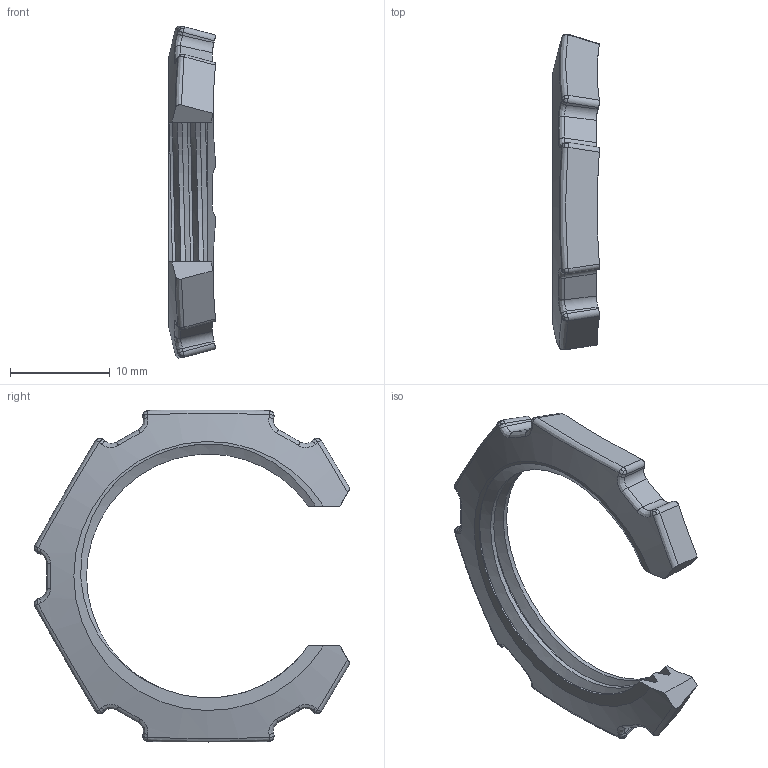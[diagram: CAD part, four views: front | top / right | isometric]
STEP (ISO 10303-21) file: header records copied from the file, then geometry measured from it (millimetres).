
FILE_DESCRIPTION(('Creo Elements/Direct Modeling STEP Export'),'2;1');
FILE_NAME('H12-0021-CL903_LN-CTG22MC.stp','2015-04-14T13:37:28',(''),(''),'PTC Creo Elements/Direct Modeling STEP processor for AP214 (Solid Model)','PTC Creo Elements/Direct Modeling 19.0A 04-Oct-2014 (C) Parametric Technology GmbH','');
FILE_SCHEMA(('AUTOMOTIVE_DESIGN { 1 0 10303 214 1 1 1 1 }'));
Length unit declared in the file: millimetre
Products named in the file (2): LN-CTG22MC
Assembly tree (1 placements, depth 2):
  LN-CTG22MC
    LN-CTG22MC
Bounding box: 4.69 x 31.61 x 33.24 mm (x, y, z)
Volume: 1120.3 mm3; surface area: 1372.2 mm2
Topology: 1 solids, 1 shells, 123 faces, 311 edges, 190 vertices
Faces by surface type: bspline 67, plane 28, cylinder 26, cone 2
Entity records: 8974 total; most frequent: CARTESIAN_POINT 6749, ORIENTED_EDGE 622, EDGE_CURVE 311, VERTEX_POINT 190, B_SPLINE_CURVE_WITH_KNOTS 184, DIRECTION 180, EDGE_LOOP 123, FACE_OUTER_BOUND 123
